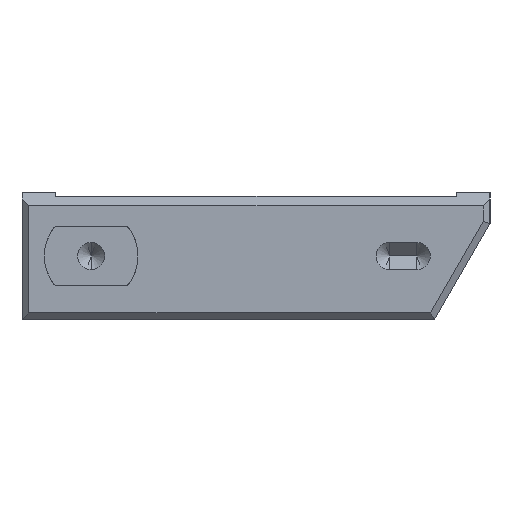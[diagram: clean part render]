
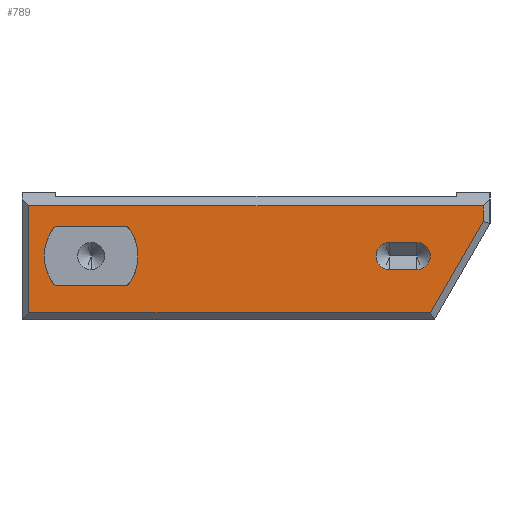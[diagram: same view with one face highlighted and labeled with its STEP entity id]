
A CAD part, left-side view. The second image highlights one B-rep face of the part: STEP entity #789.
In plain terms, the highlighted planar face has unit normal (-1, 0, 0).
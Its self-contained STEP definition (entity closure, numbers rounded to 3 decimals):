
#2 = CARTESIAN_POINT ( 'NONE',  ( -33.5, -5.1, 0. ) ) ;
#218 = CARTESIAN_POINT ( 'NONE',  ( -33.5, -0.5, 3.7 ) ) ;
#480 = ORIENTED_EDGE ( 'NONE', *, *, #2976, .T. ) ;
#523 = LINE ( 'NONE', #11887, #1941 ) ;
#557 = EDGE_CURVE ( 'NONE', #2980, #10045, #4690, .T. ) ;
#642 = EDGE_LOOP ( 'NONE', ( #480, #5715, #2062, #7220, #5287 ) ) ;
#691 = DIRECTION ( 'NONE',  ( 0., 1., 0. ) ) ;
#711 = EDGE_CURVE ( 'NONE', #1977, #10752, #6958, .T. ) ;
#789 = ADVANCED_FACE ( 'NONE', ( #6020, #5031, #8793 ), #4098, .F. ) ;
#1070 = EDGE_CURVE ( 'NONE', #10045, #11827, #11485, .T. ) ;
#1149 = EDGE_CURVE ( 'NONE', #6631, #4868, #8457, .T. ) ;
#1308 = DIRECTION ( 'NONE',  ( 1., 0., 0. ) ) ;
#1852 = EDGE_CURVE ( 'NONE', #10148, #6060, #10376, .T. ) ;
#1940 = VECTOR ( 'NONE', #7519, 1000. ) ;
#1941 = VECTOR ( 'NONE', #4374, 1000. ) ;
#1963 = CARTESIAN_POINT ( 'NONE',  ( -33.5, -34.5, 1.334 ) ) ;
#1977 = VERTEX_POINT ( 'NONE', #3579 ) ;
#2018 = DIRECTION ( 'NONE',  ( 0., 0., 1. ) ) ;
#2062 = ORIENTED_EDGE ( 'NONE', *, *, #2658, .T. ) ;
#2065 = CARTESIAN_POINT ( 'NONE',  ( -33.5, -29.1, 1. ) ) ;
#2090 = VECTOR ( 'NONE', #6680, 1000. ) ;
#2238 = DIRECTION ( 'NONE',  ( 1., 0., 0. ) ) ;
#2456 = EDGE_CURVE ( 'NONE', #3611, #4077, #8073, .T. ) ;
#2658 = EDGE_CURVE ( 'NONE', #4077, #7411, #8320, .T. ) ;
#2718 = CARTESIAN_POINT ( 'NONE',  ( -33.5, -0.5, 0. ) ) ;
#2723 = AXIS2_PLACEMENT_3D ( 'NONE', #7865, #2238, #3170 ) ;
#2884 = DIRECTION ( 'NONE',  ( 0., 0., 1. ) ) ;
#2976 = EDGE_CURVE ( 'NONE', #10752, #3611, #6863, .T. ) ;
#2980 = VERTEX_POINT ( 'NONE', #10635 ) ;
#3039 = DIRECTION ( 'NONE',  ( 0., -1., 0. ) ) ;
#3170 = DIRECTION ( 'NONE',  ( 0., 0., -1. ) ) ;
#3230 = CARTESIAN_POINT ( 'NONE',  ( -33.5, 0., -4.2 ) ) ;
#3326 = AXIS2_PLACEMENT_3D ( 'NONE', #3865, #7637, #2018 ) ;
#3579 = CARTESIAN_POINT ( 'NONE',  ( -33.5, -0.5, -4.2 ) ) ;
#3611 = VERTEX_POINT ( 'NONE', #10312 ) ;
#3865 = CARTESIAN_POINT ( 'NONE',  ( -33.5, -27.1, 0. ) ) ;
#4002 = DIRECTION ( 'NONE',  ( 0., 0., -1. ) ) ;
#4077 = VERTEX_POINT ( 'NONE', #8066 ) ;
#4089 = CARTESIAN_POINT ( 'NONE',  ( -33.5, -2.753, 1.334 ) ) ;
#4098 = PLANE ( 'NONE',  #2723 ) ;
#4233 = ORIENTED_EDGE ( 'NONE', *, *, #557, .F. ) ;
#4374 = DIRECTION ( 'NONE',  ( 0., -1., 0. ) ) ;
#4566 = EDGE_CURVE ( 'NONE', #7411, #1977, #7413, .T. ) ;
#4690 = CIRCLE ( 'NONE', #6673, 1. ) ;
#4762 = ORIENTED_EDGE ( 'NONE', *, *, #7510, .T. ) ;
#4839 = VECTOR ( 'NONE', #11920, 1000. ) ;
#4868 = VERTEX_POINT ( 'NONE', #4089 ) ;
#4932 = DIRECTION ( 'NONE',  ( 1., 0., 0. ) ) ;
#5031 = FACE_OUTER_BOUND ( 'NONE', #642, .T. ) ;
#5098 = AXIS2_PLACEMENT_3D ( 'NONE', #5969, #1308, #7870 ) ;
#5287 = ORIENTED_EDGE ( 'NONE', *, *, #711, .T. ) ;
#5339 = CARTESIAN_POINT ( 'NONE',  ( -33.5, -30.111, -4.2 ) ) ;
#5488 = EDGE_LOOP ( 'NONE', ( #11411, #4233, #11512, #8221 ) ) ;
#5615 = DIRECTION ( 'NONE',  ( 0., 1., 0. ) ) ;
#5687 = LINE ( 'NONE', #1963, #8687 ) ;
#5715 = ORIENTED_EDGE ( 'NONE', *, *, #2456, .T. ) ;
#5743 = LINE ( 'NONE', #8526, #10862 ) ;
#5910 = CARTESIAN_POINT ( 'NONE',  ( -33.5, -27.1, 1. ) ) ;
#5969 = CARTESIAN_POINT ( 'NONE',  ( -33.5, -5.1, 0. ) ) ;
#6020 = FACE_BOUND ( 'NONE', #9603, .T. ) ;
#6060 = VERTEX_POINT ( 'NONE', #11733 ) ;
#6523 = CARTESIAN_POINT ( 'NONE',  ( -33.5, 0., 3.7 ) ) ;
#6631 = VERTEX_POINT ( 'NONE', #11107 ) ;
#6673 = AXIS2_PLACEMENT_3D ( 'NONE', #9633, #9515, #2884 ) ;
#6680 = DIRECTION ( 'NONE',  ( 0., -0.5, 0.866 ) ) ;
#6700 = CIRCLE ( 'NONE', #3326, 1. ) ;
#6737 = CARTESIAN_POINT ( 'NONE',  ( -33.5, -27.1, -1. ) ) ;
#6863 = LINE ( 'NONE', #8712, #2090 ) ;
#6914 = EDGE_CURVE ( 'NONE', #11827, #7518, #6700, .T. ) ;
#6958 = LINE ( 'NONE', #3230, #7855 ) ;
#6991 = EDGE_CURVE ( 'NONE', #7518, #2980, #523, .T. ) ;
#7220 = ORIENTED_EDGE ( 'NONE', *, *, #4566, .T. ) ;
#7411 = VERTEX_POINT ( 'NONE', #218 ) ;
#7413 = LINE ( 'NONE', #2718, #11021 ) ;
#7510 = EDGE_CURVE ( 'NONE', #6060, #6631, #5743, .T. ) ;
#7518 = VERTEX_POINT ( 'NONE', #6737 ) ;
#7519 = DIRECTION ( 'NONE',  ( 0., 1., 0. ) ) ;
#7637 = DIRECTION ( 'NONE',  ( -1., 0., 0. ) ) ;
#7855 = VECTOR ( 'NONE', #3039, 1000. ) ;
#7865 = CARTESIAN_POINT ( 'NONE',  ( -33.5, 0., 0. ) ) ;
#7870 = DIRECTION ( 'NONE',  ( 0., 0., -1. ) ) ;
#8066 = CARTESIAN_POINT ( 'NONE',  ( -33.5, -34., 3.7 ) ) ;
#8073 = LINE ( 'NONE', #8926, #4839 ) ;
#8221 = ORIENTED_EDGE ( 'NONE', *, *, #6914, .F. ) ;
#8279 = CARTESIAN_POINT ( 'NONE',  ( -33.5, -29.1, 1. ) ) ;
#8320 = LINE ( 'NONE', #6523, #8600 ) ;
#8448 = ORIENTED_EDGE ( 'NONE', *, *, #1852, .T. ) ;
#8457 = CIRCLE ( 'NONE', #5098, 2.699 ) ;
#8526 = CARTESIAN_POINT ( 'NONE',  ( -33.5, -34.5, -1.334 ) ) ;
#8533 = DIRECTION ( 'NONE',  ( 0., 0., -1. ) ) ;
#8600 = VECTOR ( 'NONE', #691, 1000. ) ;
#8687 = VECTOR ( 'NONE', #8765, 1000. ) ;
#8712 = CARTESIAN_POINT ( 'NONE',  ( -33.5, -34.067, 2.651 ) ) ;
#8765 = DIRECTION ( 'NONE',  ( 0., 1., 0. ) ) ;
#8793 = FACE_BOUND ( 'NONE', #5488, .T. ) ;
#8871 = EDGE_CURVE ( 'NONE', #10148, #4868, #5687, .T. ) ;
#8926 = CARTESIAN_POINT ( 'NONE',  ( -33.5, -34., 0. ) ) ;
#9515 = DIRECTION ( 'NONE',  ( -1., 0., 0. ) ) ;
#9603 = EDGE_LOOP ( 'NONE', ( #11523, #10724, #8448, #4762 ) ) ;
#9633 = CARTESIAN_POINT ( 'NONE',  ( -33.5, -29.1, 0. ) ) ;
#10045 = VERTEX_POINT ( 'NONE', #8279 ) ;
#10148 = VERTEX_POINT ( 'NONE', #10329 ) ;
#10312 = CARTESIAN_POINT ( 'NONE',  ( -33.5, -34., 2.535 ) ) ;
#10329 = CARTESIAN_POINT ( 'NONE',  ( -33.5, -7.447, 1.334 ) ) ;
#10376 = CIRCLE ( 'NONE', #12177, 2.699 ) ;
#10635 = CARTESIAN_POINT ( 'NONE',  ( -33.5, -29.1, -1. ) ) ;
#10724 = ORIENTED_EDGE ( 'NONE', *, *, #8871, .F. ) ;
#10752 = VERTEX_POINT ( 'NONE', #5339 ) ;
#10862 = VECTOR ( 'NONE', #5615, 1000. ) ;
#11021 = VECTOR ( 'NONE', #8533, 1000. ) ;
#11107 = CARTESIAN_POINT ( 'NONE',  ( -33.5, -2.753, -1.334 ) ) ;
#11411 = ORIENTED_EDGE ( 'NONE', *, *, #1070, .F. ) ;
#11485 = LINE ( 'NONE', #2065, #1940 ) ;
#11512 = ORIENTED_EDGE ( 'NONE', *, *, #6991, .F. ) ;
#11523 = ORIENTED_EDGE ( 'NONE', *, *, #1149, .T. ) ;
#11733 = CARTESIAN_POINT ( 'NONE',  ( -33.5, -7.447, -1.334 ) ) ;
#11827 = VERTEX_POINT ( 'NONE', #5910 ) ;
#11887 = CARTESIAN_POINT ( 'NONE',  ( -33.5, -29.1, -1. ) ) ;
#11920 = DIRECTION ( 'NONE',  ( 0., 0., 1. ) ) ;
#12177 = AXIS2_PLACEMENT_3D ( 'NONE', #2, #4932, #4002 ) ;
